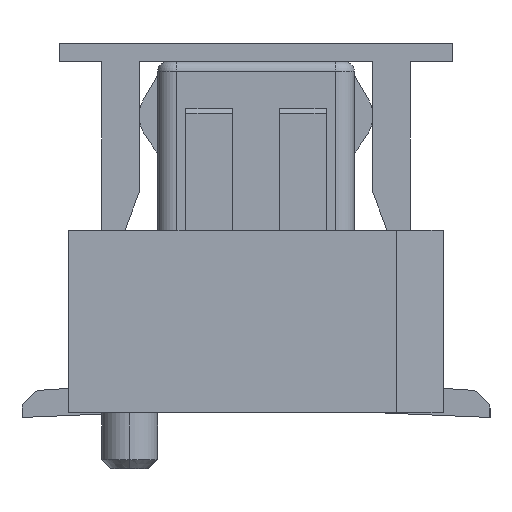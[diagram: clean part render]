
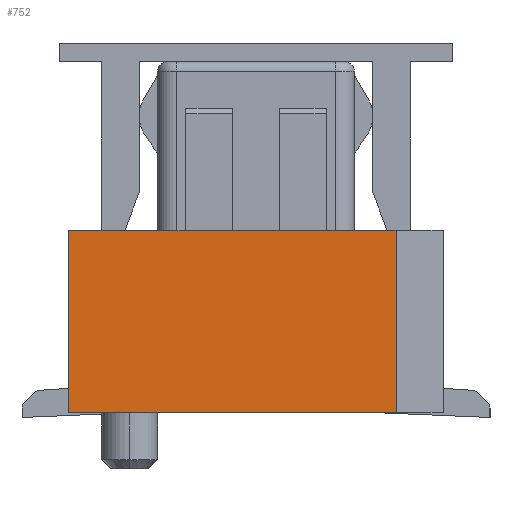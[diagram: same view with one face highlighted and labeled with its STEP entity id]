
A CAD part, left-side view. The second image highlights one B-rep face of the part: STEP entity #752.
In plain terms, the highlighted planar face has unit normal (-1, 0, 0).
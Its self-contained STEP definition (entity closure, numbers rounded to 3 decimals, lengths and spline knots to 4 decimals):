
#713=CARTESIAN_POINT('Axis2P3D Location',(-10.95,0.,0.)) ;
#718=CARTESIAN_POINT('Line Origine',(-10.95,-1.5,0.975)) ;
#722=CARTESIAN_POINT('Vertex',(-10.95,-1.5,1.95)) ;
#724=CARTESIAN_POINT('Vertex',(-10.95,-1.5,0.)) ;
#727=CARTESIAN_POINT('Line Origine',(-10.95,0.25,1.95)) ;
#731=CARTESIAN_POINT('Vertex',(-10.95,2.,1.95)) ;
#734=CARTESIAN_POINT('Line Origine',(-10.95,2.,0.975)) ;
#738=CARTESIAN_POINT('Vertex',(-10.95,2.,0.)) ;
#741=CARTESIAN_POINT('Line Origine',(-10.95,0.25,0.)) ;
#714=DIRECTION('Axis2P3D Direction',(1.,0.,0.)) ;
#715=DIRECTION('Axis2P3D XDirection',(0.,1.,0.)) ;
#719=DIRECTION('Vector Direction',(0.,0.,1.)) ;
#728=DIRECTION('Vector Direction',(0.,1.,0.)) ;
#735=DIRECTION('Vector Direction',(0.,0.,1.)) ;
#742=DIRECTION('Vector Direction',(0.,-1.,0.)) ;
#716=AXIS2_PLACEMENT_3D('Plane Axis2P3D',#713,#714,#715) ;
#747=ORIENTED_EDGE('',*,*,#726,.F.) ;
#748=ORIENTED_EDGE('',*,*,#733,.F.) ;
#749=ORIENTED_EDGE('',*,*,#740,.F.) ;
#750=ORIENTED_EDGE('',*,*,#745,.F.) ;
#720=VECTOR('Line Direction',#719,1.) ;
#729=VECTOR('Line Direction',#728,1.) ;
#736=VECTOR('Line Direction',#735,1.) ;
#743=VECTOR('Line Direction',#742,1.) ;
#752=ADVANCED_FACE('\X2\96F64EF651E04F554F53\X0\',(#751),#717,.F.) ;
#726=EDGE_CURVE('',#723,#725,#721,.F.) ;
#733=EDGE_CURVE('',#732,#723,#730,.F.) ;
#740=EDGE_CURVE('',#739,#732,#737,.T.) ;
#745=EDGE_CURVE('',#725,#739,#744,.F.) ;
#746=EDGE_LOOP('',(#747,#748,#749,#750)) ;
#751=FACE_OUTER_BOUND('',#746,.T.) ;
#721=LINE('Line',#718,#720) ;
#730=LINE('Line',#727,#729) ;
#737=LINE('Line',#734,#736) ;
#744=LINE('Line',#741,#743) ;
#717=PLANE('Plane',#716) ;
#723=VERTEX_POINT('',#722) ;
#725=VERTEX_POINT('',#724) ;
#732=VERTEX_POINT('',#731) ;
#739=VERTEX_POINT('',#738) ;
